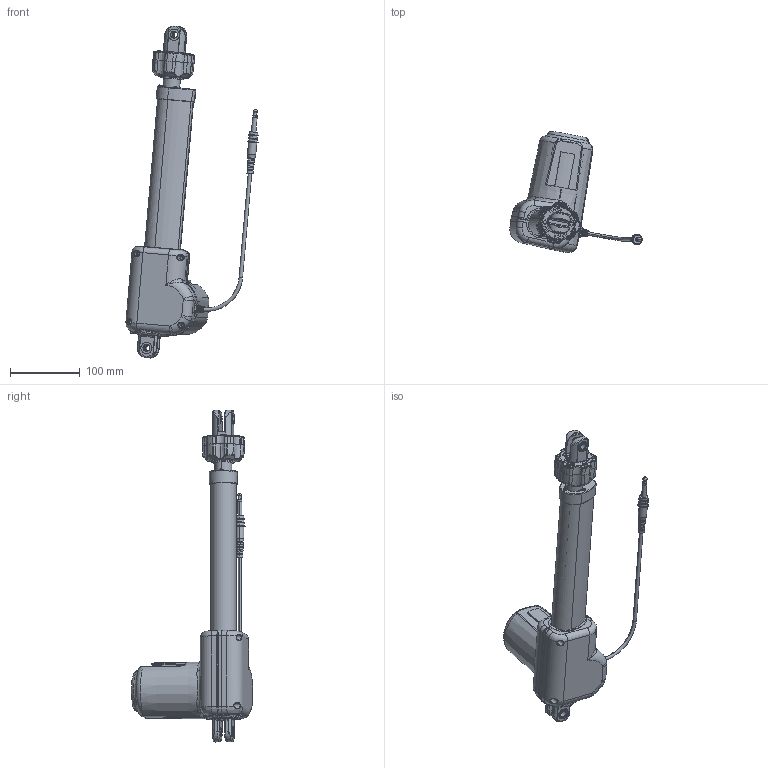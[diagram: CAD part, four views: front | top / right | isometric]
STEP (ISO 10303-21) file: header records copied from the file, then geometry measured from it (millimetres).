
FILE_DESCRIPTION((''),'2;1');
FILE_NAME('ASM0001_ASM','2024-10-07T',('USER'),(''),'PRO/ENGINEER BY PARAMETRIC TECHNOLOGY CORPORATION, 2008090','PRO/ENGINEER BY PARAMETRIC TECHNOLOGY CORPORATION, 2008090','');
FILE_SCHEMA(('CONFIG_CONTROL_DESIGN'));
Products named in the file (3): MD60-MR3; MR3; ASM0001_ASM
Assembly tree (2 placements, depth 2):
  ASM0001_ASM
    MD60-MR3
    MR3
Bounding box: 189.33 x 173.43 x 475.09 mm (x, y, z)
Surface area: 375338.7 mm2 (no closed solid volume)
Topology: 0 solids, 21 shells, 2479 faces, 6863 edges, 4451 vertices
Faces by surface type: cylinder 883, plane 798, torus 302, bspline 255, cone 183, sphere 58
Entity records: 148618 total; most frequent: CARTESIAN_POINT 86618, ORIENTED_EDGE 13546, DIRECTION 12716, EDGE_CURVE 6791, AXIS2_PLACEMENT_3D 5168, VERTEX_POINT 4447, CIRCLE 2940, EDGE_LOOP 2644
